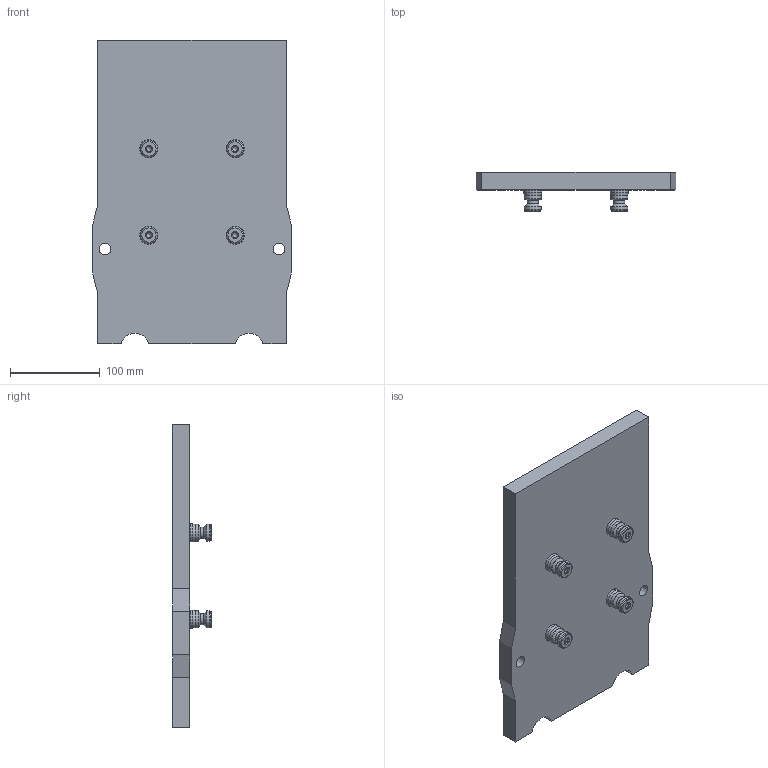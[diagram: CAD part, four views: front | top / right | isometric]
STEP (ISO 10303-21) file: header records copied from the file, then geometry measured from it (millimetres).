
FILE_DESCRIPTION (( 'STEP AP214' ), '1' );
FILE_NAME ('RL96-KD688_WEBSITE.STEP', '2025-08-11T11:30:48', ( '' ), ( '' ), 'SwSTEP 2.0', 'SolidWorks 2025', '' );
FILE_SCHEMA (( 'AUTOMOTIVE_DESIGN' ));
Length unit declared in the file: millimetre
Products named in the file (5): D_AKD688-RL96_WEBSITE; D_PS20F-1_WEBSITE_HARD TURN; D_PS20F_WEBSITE; D_39874.CPSS_WEBSITE_91390A162; RL96-KD688_WEBSITE
Assembly tree (7 placements, depth 3):
  RL96-KD688_WEBSITE
    D_AKD688-RL96_WEBSITE
    D_PS20F_WEBSITE  x4
      D_PS20F-1_WEBSITE_HARD TURN
      D_39874.CPSS_WEBSITE_91390A162
Bounding box: 222.25 x 43.05 x 338 mm (x, y, z)
Volume: 1373621.9 mm3; surface area: 182016.9 mm2
Topology: 9 solids, 9 shells, 304 faces, 696 edges, 418 vertices
Faces by surface type: plane 160, cone 76, cylinder 48, torus 20
Full cylindrical faces by diameter (mm): 6.147 x4, 8.5 x8, 10 x8, 12.497 x4, 13.096 x2, 16.02 x4, 16.297 x4, 19.012 x8, 20.277 x4
Entity records: 3352 total; most frequent: CARTESIAN_POINT 561, DIRECTION 466, ORIENTED_EDGE 372, AXIS2_PLACEMENT_3D 187, EDGE_CURVE 186, EDGE_LOOP 154, VERTEX_POINT 134, FACE_OUTER_BOUND 124
